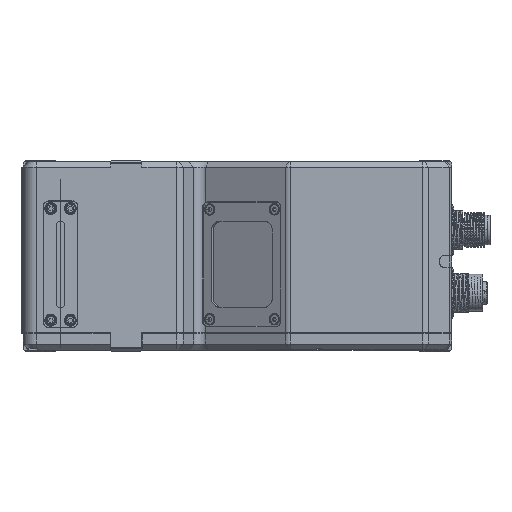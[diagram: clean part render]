
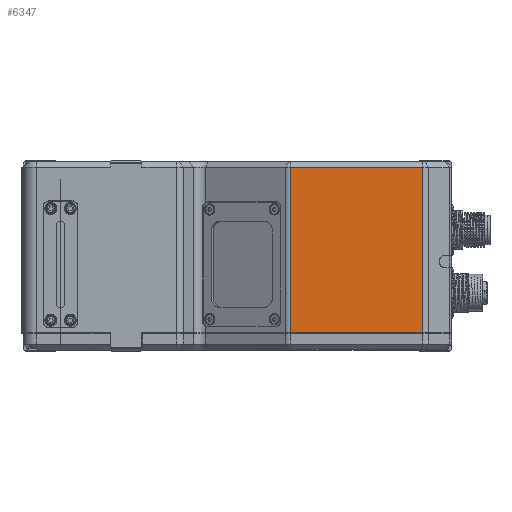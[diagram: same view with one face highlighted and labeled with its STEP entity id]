
A CAD part, top view. The second image highlights one B-rep face of the part: STEP entity #6347.
In plain terms, the highlighted planar face has unit normal (0, 0, 1).
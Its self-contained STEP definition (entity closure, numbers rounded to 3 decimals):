
#2220=DIRECTION('',(1.,0.,0.));
#2221=VECTOR('',#2220,46.287);
#2222=CARTESIAN_POINT('',(101.67,64.,-11.707));
#2223=LINE('',#2222,#2221);
#2224=DIRECTION('',(0.,-1.,0.));
#2225=VECTOR('',#2224,58.);
#2226=CARTESIAN_POINT('',(147.957,64.,-11.707));
#2227=LINE('',#2226,#2225);
#2664=DIRECTION('',(0.,-1.,0.));
#2665=VECTOR('',#2664,58.);
#2666=CARTESIAN_POINT('',(101.67,64.,-11.707));
#2667=LINE('',#2666,#2665);
#4606=DIRECTION('',(1.,0.,0.));
#4607=VECTOR('',#4606,46.287);
#4608=CARTESIAN_POINT('',(101.67,6.,-11.707));
#4609=LINE('',#4608,#4607);
#5696=CARTESIAN_POINT('',(147.957,6.,-11.707));
#5697=VERTEX_POINT('',#5696);
#5700=CARTESIAN_POINT('',(101.67,6.,-11.707));
#5701=VERTEX_POINT('',#5700);
#6186=CARTESIAN_POINT('',(147.957,64.,-11.707));
#6187=VERTEX_POINT('',#6186);
#6188=CARTESIAN_POINT('',(101.67,64.,-11.707));
#6189=VERTEX_POINT('',#6188);
#6332=CARTESIAN_POINT('',(8.199,6.5,-11.707));
#6333=DIRECTION('',(0.,0.,1.));
#6334=DIRECTION('',(1.,0.,0.));
#6335=AXIS2_PLACEMENT_3D('',#6332,#6333,#6334);
#6336=PLANE('',#6335);
#6338=ORIENTED_EDGE('',*,*,#6337,.F.);
#6340=ORIENTED_EDGE('',*,*,#6339,.T.);
#6342=ORIENTED_EDGE('',*,*,#6341,.T.);
#6344=ORIENTED_EDGE('',*,*,#6343,.F.);
#6345=EDGE_LOOP('',(#6338,#6340,#6342,#6344));
#6346=FACE_OUTER_BOUND('',#6345,.F.);
#6347=ADVANCED_FACE('',(#6346),#6336,.T.);
#6337=EDGE_CURVE('',#6189,#5701,#2667,.T.);
#6339=EDGE_CURVE('',#6189,#6187,#2223,.T.);
#6341=EDGE_CURVE('',#6187,#5697,#2227,.T.);
#6343=EDGE_CURVE('',#5701,#5697,#4609,.T.);
